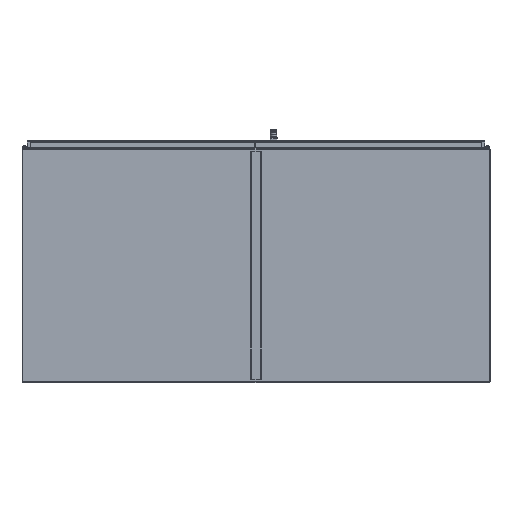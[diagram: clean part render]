
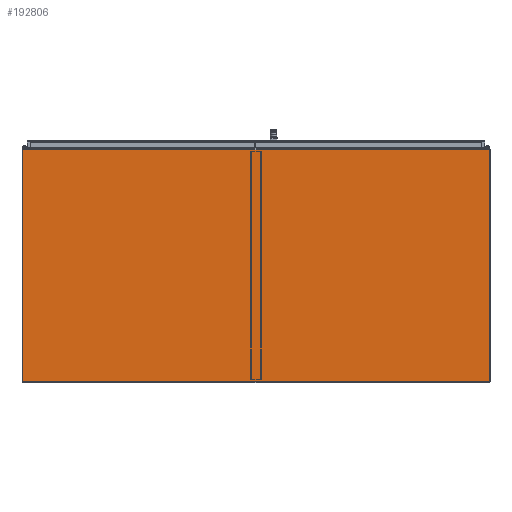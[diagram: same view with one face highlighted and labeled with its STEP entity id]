
A CAD part, front view. The second image highlights one B-rep face of the part: STEP entity #192806.
In plain terms, the highlighted planar face has unit normal (0, -1, 0).
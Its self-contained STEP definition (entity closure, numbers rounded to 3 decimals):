
#31389 = AXIS2_PLACEMENT_3D ( 'NONE', #59169, #59204, #59207 ) ;
#59169 = CARTESIAN_POINT ( 'NONE',  ( -35.917, 0., 0. ) ) ;
#59186 = PLANE ( 'NONE',  #31389 ) ;
#59204 = DIRECTION ( 'NONE',  ( 0., -1., 0. ) ) ;
#59207 = DIRECTION ( 'NONE',  ( 0., 0., -1. ) ) ;
#102752 = CARTESIAN_POINT ( 'NONE',  ( -35.917, 0., 35.742 ) ) ;
#102756 = CARTESIAN_POINT ( 'NONE',  ( -35.917, 0., 0. ) ) ;
#102760 = CARTESIAN_POINT ( 'NONE',  ( 35.917, 0., 35.742 ) ) ;
#102762 = CARTESIAN_POINT ( 'NONE',  ( 35.917, 0., 0. ) ) ;
#172553 = CARTESIAN_POINT ( 'NONE',  ( -35.917, 0., 35.949 ) ) ;
#172558 = CARTESIAN_POINT ( 'NONE',  ( 35.917, 0., 35.949 ) ) ;
#172561 = DIRECTION ( 'NONE',  ( 0., 0., 1. ) ) ;
#172564 = CARTESIAN_POINT ( 'NONE',  ( 35.917, 0., 35.742 ) ) ;
#172566 = DIRECTION ( 'NONE',  ( -1., 0., 0. ) ) ;
#172571 = DIRECTION ( 'NONE',  ( 0., 0., -1. ) ) ;
#172583 = CARTESIAN_POINT ( 'NONE',  ( -35.917, 0., 0. ) ) ;
#172585 = DIRECTION ( 'NONE',  ( -1., 0., 0. ) ) ;
#174486 = LINE ( 'NONE', #172553, #174504 ) ;
#174491 = LINE ( 'NONE', #172558, #174511 ) ;
#174504 = VECTOR ( 'NONE', #172561, 39.37 ) ;
#174507 = LINE ( 'NONE', #172564, #174509 ) ;
#174509 = VECTOR ( 'NONE', #172566, 39.37 ) ;
#174511 = VECTOR ( 'NONE', #172571, 39.37 ) ;
#174520 = LINE ( 'NONE', #172583, #174521 ) ;
#174521 = VECTOR ( 'NONE', #172585, 39.37 ) ;
#178493 = VERTEX_POINT ( 'NONE', #102752 ) ;
#178500 = VERTEX_POINT ( 'NONE', #102756 ) ;
#178508 = VERTEX_POINT ( 'NONE', #102760 ) ;
#178512 = VERTEX_POINT ( 'NONE', #102762 ) ;
#192806 = ADVANCED_FACE ( 'NONE', ( #255427 ), #59186, .T. ) ;
#237801 = EDGE_CURVE ( 'NONE', #178500, #178493, #174486, .T. ) ;
#237807 = EDGE_CURVE ( 'NONE', #178508, #178493, #174507, .T. ) ;
#237812 = EDGE_CURVE ( 'NONE', #178508, #178512, #174491, .T. ) ;
#237826 = EDGE_CURVE ( 'NONE', #178512, #178500, #174520, .T. ) ;
#250215 = ORIENTED_EDGE ( 'NONE', *, *, #237812, .F. ) ;
#250216 = ORIENTED_EDGE ( 'NONE', *, *, #237807, .T. ) ;
#250217 = ORIENTED_EDGE ( 'NONE', *, *, #237801, .F. ) ;
#250218 = ORIENTED_EDGE ( 'NONE', *, *, #237826, .F. ) ;
#254361 = EDGE_LOOP ( 'NONE', ( #250215, #250216, #250217, #250218 ) ) ;
#255427 = FACE_OUTER_BOUND ( 'NONE', #254361, .T. ) ;
